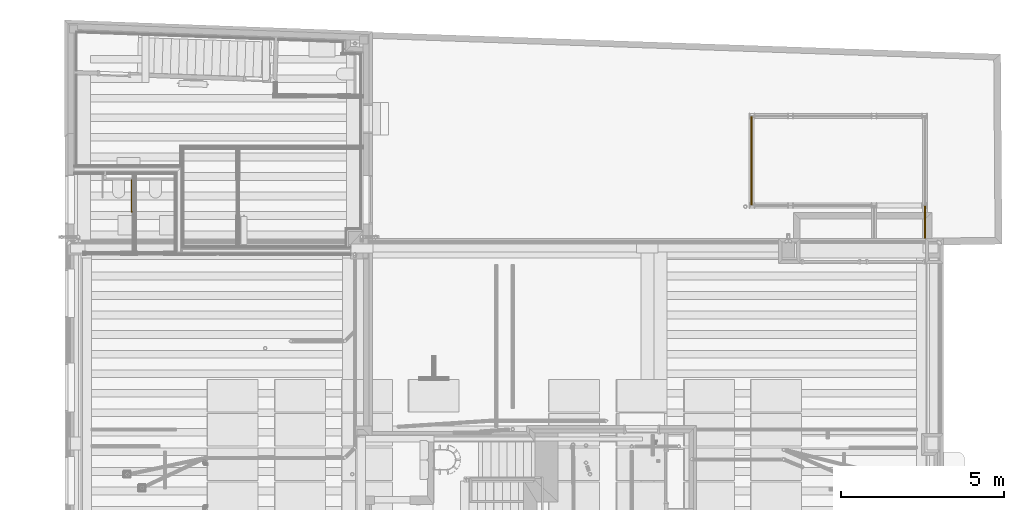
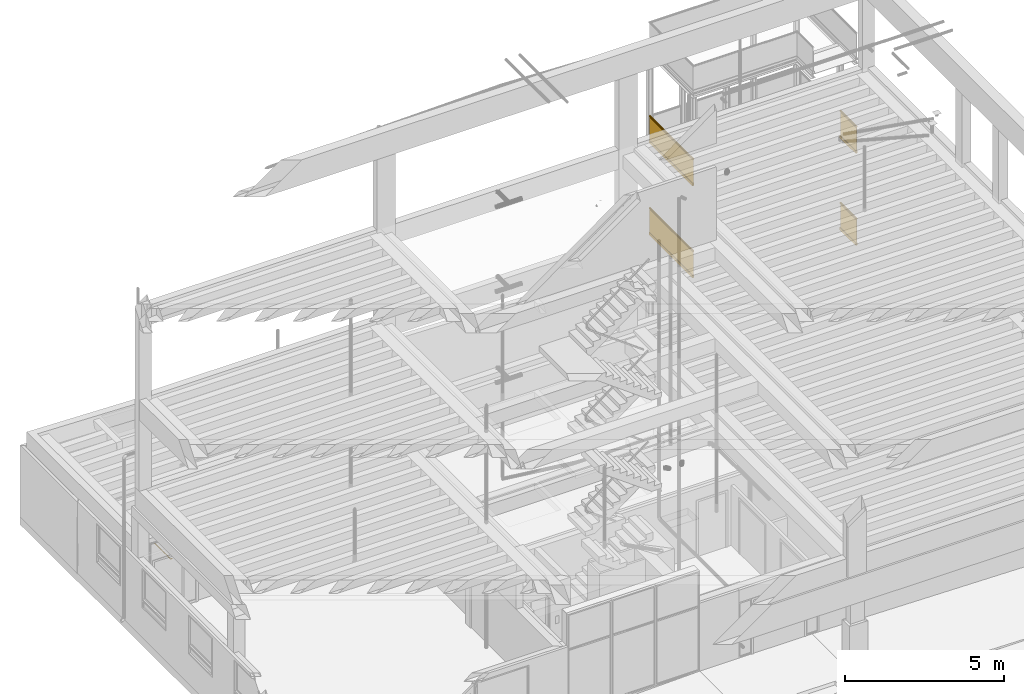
# One storey, part 32 of 106: 5 railings.
"""IFC2X3 building model written with IfcOpenShell, lengths in metres."""

from ifc_helpers import new_model, entity, si_unit, converted_unit, derived_unit, money_unit, direction, frame, origin_with_axes, place, context, subcontext, project, spatial, faceted_brep, material, type_object, element, save


model = new_model("IFC2X3")

# Units and contexts
model_context = context("Model", 3, precision=1e-05, world=origin_with_axes(), true_north=direction((0.0, 1.0)))
body_context = subcontext(model_context, "Body", "Model", "MODEL_VIEW", scale=1.0)
ifc_project = project(units=[si_unit("LENGTHUNIT", "METRE"), si_unit("AREAUNIT", "SQUARE_METRE"), si_unit("VOLUMEUNIT", "CUBIC_METRE"), si_unit("ABSORBEDDOSEUNIT", "GRAY"), si_unit("AMOUNTOFSUBSTANCEUNIT", "MOLE"), si_unit("DOSEEQUIVALENTUNIT", "SIEVERT"), si_unit("ELECTRICCAPACITANCEUNIT", "FARAD"), si_unit("ELECTRICCHARGEUNIT", "COULOMB"), si_unit("ELECTRICCONDUCTANCEUNIT", "SIEMENS"), si_unit("ELECTRICCURRENTUNIT", "AMPERE"), si_unit("ELECTRICRESISTANCEUNIT", "OHM"), si_unit("ELECTRICVOLTAGEUNIT", "VOLT"), si_unit("ENERGYUNIT", "JOULE"), si_unit("FORCEUNIT", "NEWTON"), si_unit("FREQUENCYUNIT", "HERTZ"), si_unit("ILLUMINANCEUNIT", "LUX"), si_unit("INDUCTANCEUNIT", "HENRY"), si_unit("LUMINOUSFLUXUNIT", "LUMEN"), si_unit("LUMINOUSINTENSITYUNIT", "CANDELA"), si_unit("MAGNETICFLUXDENSITYUNIT", "TESLA"), si_unit("MAGNETICFLUXUNIT", "WEBER"), si_unit("MASSUNIT", "GRAM"), converted_unit("PLANEANGLEUNIT", "degree", entity("IfcReal", 0.0174532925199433), si_unit("PLANEANGLEUNIT", "RADIAN"), dimensions=[0, 0, 0, 0, 0, 0, 0]), si_unit("POWERUNIT", "WATT"), si_unit("PRESSUREUNIT", "PASCAL"), si_unit("RADIOACTIVITYUNIT", "BECQUEREL"), si_unit("SOLIDANGLEUNIT", "STERADIAN"), si_unit("THERMODYNAMICTEMPERATUREUNIT", "KELVIN"), si_unit("TIMEUNIT", "SECOND"), derived_unit("ACCELERATIONUNIT", [(si_unit("LENGTHUNIT", "METRE"), 1), (si_unit("TIMEUNIT", "SECOND"), -2)]), derived_unit("ANGULARVELOCITYUNIT", [(converted_unit("PLANEANGLEUNIT", "degree", entity("IfcReal", 0.0174532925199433), si_unit("PLANEANGLEUNIT", "RADIAN"), dimensions=[0, 0, 0, 0, 0, 0, 0]), 1), (si_unit("TIMEUNIT", "SECOND"), -1)]), derived_unit("CURVATUREUNIT", [(converted_unit("PLANEANGLEUNIT", "degree", entity("IfcReal", 0.0174532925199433), si_unit("PLANEANGLEUNIT", "RADIAN"), dimensions=[0, 0, 0, 0, 0, 0, 0]), 1), (si_unit("LENGTHUNIT", "METRE"), -1)]), derived_unit("DYNAMICVISCOSITYUNIT", [(si_unit("PRESSUREUNIT", "PASCAL"), 1), (si_unit("TIMEUNIT", "SECOND"), 1)]), derived_unit("HEATFLUXDENSITYUNIT", [(si_unit("POWERUNIT", "WATT"), 1), (si_unit("LENGTHUNIT", "METRE"), -2)]), derived_unit("HEATINGVALUEUNIT", [(si_unit("ENERGYUNIT", "JOULE"), 1), (si_unit("MASSUNIT", "GRAM"), -1)]), derived_unit("INTEGERCOUNTRATEUNIT", [(si_unit("TIMEUNIT", "SECOND"), -1)]), derived_unit("IONCONCENTRATIONUNIT", [(si_unit("MASSUNIT", "GRAM"), 1), (si_unit("VOLUMEUNIT", "CUBIC_METRE"), -1)]), derived_unit("ISOTHERMALMOISTURECAPACITYUNIT", [(si_unit("VOLUMEUNIT", "CUBIC_METRE"), 1), (si_unit("MASSUNIT", "GRAM"), -1)]), derived_unit("KINEMATICVISCOSITYUNIT", [(si_unit("AREAUNIT", "SQUARE_METRE"), 1), (si_unit("TIMEUNIT", "SECOND"), -1)]), derived_unit("LINEARFORCEUNIT", [(si_unit("FORCEUNIT", "NEWTON"), 1), (si_unit("LENGTHUNIT", "METRE"), -1)]), derived_unit("LINEARMOMENTUNIT", [(si_unit("FORCEUNIT", "NEWTON"), 1), (si_unit("LENGTHUNIT", "METRE"), -1)]), derived_unit("LINEARSTIFFNESSUNIT", [(si_unit("FORCEUNIT", "NEWTON"), 1), (si_unit("LENGTHUNIT", "METRE"), -1)]), derived_unit("LINEARVELOCITYUNIT", [(si_unit("LENGTHUNIT", "METRE"), 1), (si_unit("TIMEUNIT", "SECOND"), -1)]), derived_unit("LUMINOUSINTENSITYDISTRIBUTIONUNIT", [(si_unit("LUMINOUSINTENSITYUNIT", "CANDELA"), 1), (si_unit("LUMINOUSFLUXUNIT", "LUMEN"), -1)]), derived_unit("MASSDENSITYUNIT", [(si_unit("MASSUNIT", "GRAM"), 1), (si_unit("VOLUMEUNIT", "CUBIC_METRE"), -1)]), derived_unit("MASSFLOWRATEUNIT", [(si_unit("MASSUNIT", "GRAM"), 1), (si_unit("TIMEUNIT", "SECOND"), -1)]), derived_unit("MASSPERLENGTHUNIT", [(si_unit("MASSUNIT", "GRAM"), 1), (si_unit("LENGTHUNIT", "METRE"), -1)]), derived_unit("MODULUSOFELASTICITYUNIT", [(si_unit("FORCEUNIT", "NEWTON"), 1), (si_unit("AREAUNIT", "SQUARE_METRE"), -1)]), derived_unit("MODULUSOFLINEARSUBGRADEREACTIONUNIT", [(si_unit("FORCEUNIT", "NEWTON"), 1), (si_unit("LENGTHUNIT", "METRE"), -2)]), derived_unit("MODULUSOFROTATIONALSUBGRADEREACTIONUNIT", [(si_unit("FORCEUNIT", "NEWTON"), 1), (si_unit("LENGTHUNIT", "METRE"), 1)]), derived_unit("MODULUSOFSUBGRADEREACTIONUNIT", [(si_unit("FORCEUNIT", "NEWTON"), 1), (si_unit("VOLUMEUNIT", "CUBIC_METRE"), -1)]), derived_unit("MOISTUREDIFFUSIVITYUNIT", [(si_unit("VOLUMEUNIT", "CUBIC_METRE"), 1), (si_unit("TIMEUNIT", "SECOND"), -1)]), derived_unit("MOLECULARWEIGHTUNIT", [(si_unit("MASSUNIT", "GRAM"), 1), (si_unit("AMOUNTOFSUBSTANCEUNIT", "MOLE"), -1)]), derived_unit("PLANARFORCEUNIT", [(si_unit("FORCEUNIT", "NEWTON"), 1), (si_unit("LENGTHUNIT", "METRE"), -2)]), derived_unit("ROTATIONALFREQUENCYUNIT", [(si_unit("TIMEUNIT", "SECOND"), -1)]), derived_unit("ROTATIONALMASSUNIT", [(si_unit("MASSUNIT", "GRAM"), 1), (si_unit("LENGTHUNIT", "METRE"), 2)]), derived_unit("ROTATIONALSTIFFNESSUNIT", [(si_unit("FORCEUNIT", "NEWTON"), 1), (si_unit("LENGTHUNIT", "METRE"), 1), (converted_unit("PLANEANGLEUNIT", "degree", entity("IfcReal", 0.0174532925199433), si_unit("PLANEANGLEUNIT", "RADIAN"), dimensions=[0, 0, 0, 0, 0, 0, 0]), -1)]), derived_unit("SECTIONAREAINTEGRALUNIT", [(si_unit("LENGTHUNIT", "METRE"), 5)]), derived_unit("SECTIONMODULUSUNIT", [(si_unit("LENGTHUNIT", "METRE"), 3)]), derived_unit("SHEARMODULUSUNIT", [(si_unit("FORCEUNIT", "NEWTON"), 1), (si_unit("AREAUNIT", "SQUARE_METRE"), -1)]), derived_unit("SOUNDPOWERUNIT", [(si_unit("ENERGYUNIT", "JOULE"), 1), (si_unit("TIMEUNIT", "SECOND"), -1)]), derived_unit("SPECIFICHEATCAPACITYUNIT", [(si_unit("FORCEUNIT", "NEWTON"), 1), (si_unit("MASSUNIT", "GRAM"), -1), (si_unit("THERMODYNAMICTEMPERATUREUNIT", "KELVIN"), -1)]), derived_unit("TEMPERATUREGRADIENTUNIT", [(si_unit("THERMODYNAMICTEMPERATUREUNIT", "KELVIN"), 1), (si_unit("LENGTHUNIT", "METRE"), -1)]), derived_unit("THERMALADMITTANCEUNIT", [(si_unit("POWERUNIT", "WATT"), 1), (si_unit("AREAUNIT", "SQUARE_METRE"), -1), (si_unit("THERMODYNAMICTEMPERATUREUNIT", "KELVIN"), -1)]), derived_unit("THERMALCONDUCTANCEUNIT", [(si_unit("POWERUNIT", "WATT"), 1), (si_unit("LENGTHUNIT", "METRE"), -1), (si_unit("THERMODYNAMICTEMPERATUREUNIT", "KELVIN"), -1)]), derived_unit("THERMALEXPANSIONCOEFFICIENTUNIT", [(si_unit("THERMODYNAMICTEMPERATUREUNIT", "KELVIN"), -1)]), derived_unit("THERMALRESISTANCEUNIT", [(si_unit("AREAUNIT", "SQUARE_METRE"), 1), (si_unit("POWERUNIT", "WATT"), -1)]), derived_unit("THERMALTRANSMITTANCEUNIT", [(si_unit("POWERUNIT", "WATT"), 1), (si_unit("AREAUNIT", "SQUARE_METRE"), -1), (si_unit("THERMODYNAMICTEMPERATUREUNIT", "KELVIN"), -1)]), derived_unit("TORQUEUNIT", [(si_unit("FORCEUNIT", "NEWTON"), 1), (si_unit("LENGTHUNIT", "METRE"), 1)]), derived_unit("VAPORPERMEABILITYUNIT", [(si_unit("MASSUNIT", "GRAM"), 1), (si_unit("TIMEUNIT", "SECOND"), -1)]), derived_unit("VOLUMETRICFLOWRATEUNIT", [(si_unit("VOLUMEUNIT", "CUBIC_METRE"), 1), (si_unit("TIMEUNIT", "SECOND"), -1)]), derived_unit("WARPINGCONSTANTUNIT", [(si_unit("LENGTHUNIT", "METRE"), 6)]), derived_unit("WARPINGMOMENTUNIT", [(si_unit("FORCEUNIT", "NEWTON"), 1), (si_unit("LENGTHUNIT", "METRE"), 2)]), money_unit("GBP")], contexts=[model_context])

# Site, building, storey
site_placement = place(None, origin_with_axes())
site = spatial("IfcSite", under=ifc_project, at=site_placement, Name="Site", CompositionType="ELEMENT")
building_placement = place(site_placement, origin_with_axes())
building = spatial("IfcBuilding", under=site, at=building_placement, Name="Building01", CompositionType="ELEMENT")
storey_placement = place(building_placement, origin_with_axes())
storey = spatial("IfcBuildingStorey", under=building, at=storey_placement, Name="GF", CompositionType="ELEMENT", Elevation=0.0)

# Railings
ifc_material = material(Name="A_BSUK_Steel_Miscellaneous")
railing_type_1 = type_object("IfcRailingType", Name="A-Handrail-900mm", PredefinedType="NOTDEFINED")
railing_1_placement = place(storey_placement, frame((2.100525, 15.721284, 0.198), z_axis=(0.0, 0.0, 1.0), x_axis=(1.0, 0.0, 0.0)))
element("IfcRailing", 1, at=railing_1_placement, inside=storey, type_object=railing_type_1, material=ifc_material, Name="A-Handrail-900mm", ObjectType="A-Handrail-900mm", PredefinedType="HANDRAIL", context=body_context, shape_type="Brep", body=[
    faceted_brep([(-0.05373, 0.00692, 0.88935), (-0.054743, 0.005907, 0.886903), (0.0, 0.006393, 0.886702), (-0.055757, 0.004893, 0.884457), (0.0, 0.004893, 0.884457), (-0.058203, 0.002447, 0.883443), (0.0, 0.002648, 0.882957), (-0.06065, 0.0, 0.88243), (0.0, 0.0, 0.88243), (-0.063097, -0.002447, 0.883443), (0.0, -0.002648, 0.882957), (-0.065543, -0.004893, 0.884457), (0.0, -0.004893, 0.884457), (-0.066557, -0.005907, 0.886903), (0.0, -0.006393, 0.886702), (-0.06757, -0.00692, 0.88935), (0.0, -0.00692, 0.88935), (-0.066557, -0.005907, 0.891797), (0.0, -0.006393, 0.891998), (-0.065543, -0.004893, 0.894243), (0.0, -0.004893, 0.894243), (-0.063097, -0.002447, 0.895257), (0.0, -0.002648, 0.895743), (-0.06065, 0.0, 0.89627), (0.0, 0.0, 0.89627), (-0.058203, 0.002447, 0.895257), (0.0, 0.002648, 0.895743), (-0.055757, 0.004893, 0.894243), (0.0, 0.004893, 0.894243), (-0.054743, 0.005907, 0.891797), (0.0, 0.006393, 0.891998), (0.0, 0.00692, 0.88935), (0.0, -0.009839, 0.885274), (0.0, -0.007531, 0.881819), (0.0, -0.004076, 0.879511), (0.0, 0.0, 0.8787), (0.0, 0.004076, 0.879511), (0.0, 0.007531, 0.881819), (0.0, 0.009839, 0.885274), (0.0, 0.01065, 0.88935), (0.0, 0.009839, 0.893426), (0.0, 0.007531, 0.896881), (0.0, 0.004076, 0.899189), (0.0, 0.0, 0.9), (0.0, -0.004076, 0.899189), (0.0, -0.007531, 0.896881), (0.0, -0.009839, 0.893426), (0.0, -0.01065, 0.88935), (-0.068181, -0.007531, 0.896881), (-0.064726, -0.004076, 0.899189), (-0.06065, 0.0, 0.9), (-0.056574, 0.004076, 0.899189), (-0.053119, 0.007531, 0.896881), (-0.050811, 0.009839, 0.893426), (-0.05, 0.01065, 0.88935), (-0.050811, 0.009839, 0.885274), (-0.053119, 0.007531, 0.881819), (-0.056574, 0.004076, 0.879511), (-0.06065, 0.0, 0.8787), (-0.064726, -0.004076, 0.879511), (-0.068181, -0.007531, 0.881819), (-0.069944, -0.009294, 0.885532), (-0.071245, -0.010595, 0.888273), (-0.071245, -0.010595, 0.890427), (-0.069944, -0.009294, 0.893168), (-0.071245, -0.01065, 0.88935)], [[[0, 1, 2]], [[1, 3, 4]], [[3, 5, 6]], [[5, 7, 8]], [[7, 9, 10]], [[9, 11, 12]], [[11, 13, 14]], [[13, 15, 16]], [[17, 18, 16]], [[19, 20, 18]], [[21, 22, 20]], [[23, 24, 22]], [[25, 26, 24]], [[27, 28, 26]], [[29, 30, 28]], [[0, 31, 30]], [[30, 29, 0]], [[28, 27, 29]], [[26, 25, 27]], [[24, 23, 25]], [[22, 21, 23]], [[20, 19, 21]], [[18, 17, 19]], [[16, 15, 17]], [[16, 14, 13]], [[14, 12, 11]], [[12, 10, 9]], [[10, 8, 7]], [[8, 6, 5]], [[6, 4, 3]], [[4, 2, 1]], [[2, 31, 0]], [[32, 33, 34, 35, 36, 37, 38, 39, 40, 41, 42, 43, 44, 45, 46, 47], [18, 20, 22, 24, 26, 28, 30, 31, 2, 4, 6, 8, 10, 12, 14, 16]], [[48, 49, 50, 51, 52, 53, 54, 55, 56, 57, 58, 59, 60, 61, 62, 63, 64], [27, 25, 23, 21, 19, 17, 15, 13, 11, 9, 7, 5, 3, 1, 0, 29]], [[61, 32, 47]], [[60, 33, 32]], [[59, 34, 33, 60]], [[58, 35, 34, 59]], [[57, 36, 35, 58]], [[56, 37, 36, 57]], [[55, 38, 37, 56]], [[54, 39, 38, 55]], [[53, 40, 39, 54]], [[52, 41, 40, 53]], [[51, 42, 41, 52]], [[50, 43, 42, 51]], [[49, 44, 43, 50]], [[48, 45, 44, 49]], [[48, 64, 46]], [[63, 65, 47]], [[64, 63, 47]], [[47, 46, 64]], [[46, 45, 48]], [[32, 61, 60]], [[47, 65, 62]], [[47, 62, 61]], [[62, 65, 63]]]),
    faceted_brep([(-0.070489, -0.009839, 0.885274), (-0.068181, -0.007531, 0.881819), (-0.064726, -0.004076, 0.879511), (-0.06065, 0.0, 0.8787), (-0.056574, 0.004076, 0.879511), (-0.053119, 0.007531, 0.881819), (-0.050811, 0.009839, 0.885274), (-0.05, 0.01065, 0.88935), (-0.050811, 0.009839, 0.893426), (-0.053119, 0.007531, 0.896881), (-0.056574, 0.004076, 0.899189), (-0.06065, 0.0, 0.9), (-0.064726, -0.004076, 0.899189), (-0.068181, -0.007531, 0.896881), (-0.070489, -0.009839, 0.893426), (-0.0713, -0.01065, 0.88935), (-0.065543, -0.004893, 0.894243), (-0.063097, -0.002447, 0.895257), (-0.06065, 0.0, 0.89627), (-0.058203, 0.002447, 0.895257), (-0.055757, 0.004893, 0.894243), (-0.054743, 0.005907, 0.891797), (-0.05373, 0.00692, 0.88935), (-0.054743, 0.005907, 0.886903), (-0.055757, 0.004893, 0.884457), (-0.058203, 0.002447, 0.883443), (-0.06065, 0.0, 0.88243), (-0.063097, -0.002447, 0.883443), (-0.065543, -0.004893, 0.884457), (-0.066557, -0.005907, 0.886903), (-0.06757, -0.00692, 0.88935), (-0.066557, -0.005907, 0.891797), (-0.067043, 0.987366, 0.886702), (-0.06757, 0.987366, 0.88935), (-0.065543, 0.987366, 0.884457), (-0.063298, 0.987366, 0.882957), (-0.06065, 0.987366, 0.88243), (-0.058002, 0.987366, 0.882957), (-0.055757, 0.987366, 0.884457), (-0.054257, 0.987366, 0.886702), (-0.05373, 0.987366, 0.88935), (-0.054257, 0.987366, 0.891998), (-0.055757, 0.987366, 0.894243), (-0.058002, 0.987366, 0.895743), (-0.06065, 0.987366, 0.89627), (-0.063298, 0.987366, 0.895743), (-0.065543, 0.987366, 0.894243), (-0.067043, 0.987366, 0.891998), (-0.070489, 0.987366, 0.893426), (-0.068181, 0.987366, 0.896881), (-0.064726, 0.987366, 0.899189), (-0.06065, 0.987366, 0.9), (-0.056574, 0.987366, 0.899189), (-0.053119, 0.987366, 0.896881), (-0.050811, 0.987366, 0.893426), (-0.05, 0.987366, 0.88935), (-0.050811, 0.987366, 0.885274), (-0.053119, 0.987366, 0.881819), (-0.056574, 0.987366, 0.879511), (-0.06065, 0.987366, 0.8787), (-0.064726, 0.987366, 0.879511), (-0.068181, 0.987366, 0.881819), (-0.070489, 0.987366, 0.885274), (-0.0713, 0.987366, 0.88935)], [[[0, 1, 2, 3, 4, 5, 6, 7, 8, 9, 10, 11, 12, 13, 14, 15], [16, 17, 18, 19, 20, 21, 22, 23, 24, 25, 26, 27, 28, 29, 30, 31]], [[29, 32, 33]], [[28, 34, 32]], [[27, 35, 34]], [[26, 36, 35]], [[25, 37, 36]], [[24, 38, 37]], [[23, 39, 38]], [[22, 40, 39]], [[22, 21, 41]], [[21, 20, 42]], [[20, 19, 43]], [[19, 18, 44]], [[18, 17, 45]], [[17, 16, 46]], [[16, 31, 47]], [[31, 30, 33]], [[33, 47, 31]], [[47, 46, 16]], [[46, 45, 17]], [[45, 44, 18]], [[44, 43, 19]], [[43, 42, 20]], [[42, 41, 21]], [[41, 40, 22]], [[39, 23, 22]], [[38, 24, 23]], [[37, 25, 24]], [[36, 26, 25]], [[35, 27, 26]], [[34, 28, 27]], [[32, 29, 28]], [[33, 30, 29]], [[48, 49, 50, 51, 52, 53, 54, 55, 56, 57, 58, 59, 60, 61, 62, 63], [32, 34, 35, 36, 37, 38, 39, 40, 41, 42, 43, 44, 45, 46, 47, 33]], [[14, 48, 63, 15]], [[13, 49, 48, 14]], [[12, 50, 49, 13]], [[11, 51, 50, 12]], [[10, 52, 51, 11]], [[9, 53, 52, 10]], [[8, 54, 53, 9]], [[7, 55, 54, 8]], [[6, 56, 55, 7]], [[5, 57, 56, 6]], [[4, 58, 57, 5]], [[3, 59, 58, 4]], [[2, 60, 59, 3]], [[1, 61, 60, 2]], [[0, 62, 61, 1]], [[15, 63, 62, 0]]]),
])
railing_type_2 = type_object("IfcRailingType", Name="A-RailingGlassPanel-1050mm", PredefinedType="NOTDEFINED")
railing_2_placement = place(storey_placement, frame((21.090134, 15.921381, 8.587442), z_axis=(0.0, 0.0, 1.0), x_axis=(1.0, 0.0, 0.0)))
element("IfcRailing", 2, at=railing_2_placement, inside=storey, type_object=railing_type_2, material=ifc_material, Name="A-RailingGlassPanel-1050mm", ObjectType="A-RailingGlassPanel-1050mm", PredefinedType="HANDRAIL", context=body_context, shape_type="Brep", body=[
    faceted_brep([(-0.0125, 2.7366, 0.9875), (-0.0125, 0.0, 0.9875), (-0.023022, 0.0, 0.99456), (-0.023022, 2.7366, 0.99456), (-0.030045, 0.0, 1.005108), (-0.030045, 2.7366, 1.005108), (-0.0325, 0.0, 1.017539), (-0.0325, 2.7366, 1.017539), (-0.030015, 0.0, 1.029964), (-0.030015, 2.7366, 1.029964), (-0.022967, 0.0, 1.040495), (-0.022967, 2.7366, 1.040495), (-0.012428, 0.0, 1.04753), (-0.012428, 2.7366, 1.04753), (0.0, 0.0, 1.05), (0.0, 2.7366, 1.05), (0.012428, 0.0, 1.04753), (0.012428, 2.7366, 1.04753), (0.022967, 0.0, 1.040495), (0.022967, 2.7366, 1.040495), (0.030015, 0.0, 1.029964), (0.030015, 2.7366, 1.029964), (0.0325, 0.0, 1.017539), (0.0325, 2.7366, 1.017539), (0.030045, 0.0, 1.005108), (0.030045, 2.7366, 1.005108), (0.023022, 0.0, 0.99456), (0.023022, 2.7366, 0.99456), (0.0125, 0.0, 0.9875), (0.0125, 2.7366, 0.9875), (-0.0125, 2.7366, 1.0125), (-0.0125, 0.0, 1.0125), (0.0125, 2.7366, 1.0125), (0.0125, 0.0, 1.0125)], [[[0, 1, 2, 3]], [[3, 2, 4, 5]], [[5, 4, 6, 7]], [[7, 6, 8, 9]], [[9, 8, 10, 11]], [[11, 10, 12, 13]], [[13, 12, 14, 15]], [[15, 14, 16, 17]], [[17, 16, 18, 19]], [[19, 18, 20, 21]], [[21, 20, 22, 23]], [[23, 22, 24, 25]], [[25, 24, 26, 27]], [[27, 26, 28, 29]], [[0, 30, 31, 1]], [[30, 32, 33, 31]], [[32, 30, 0, 3, 5, 7, 9, 11, 13, 15, 17, 19, 21, 23, 25, 27, 29]], [[32, 29, 28, 33]], [[28, 26, 24, 22, 20, 18, 16, 14, 12, 10, 8, 6, 4, 2, 1, 31, 33]]]),
    faceted_brep([(-0.0295, 2.7366, 0.099925), (-0.0295, 0.0, 0.099925), (-0.0125, 0.0, 0.099925), (-0.0125, 2.7366, 0.099925), (-0.0325, 2.7366, 0.096925), (-0.0325, 0.0, 0.096925), (-0.032272, 0.0, 0.098073), (-0.032272, 2.7366, 0.098073), (-0.031621, 0.0, 0.099046), (-0.031621, 2.7366, 0.099046), (-0.030648, 0.0, 0.099697), (-0.030648, 2.7366, 0.099697), (-0.0325, 2.7366, 0.003), (-0.0325, 0.0, 0.003), (-0.0295, 2.7366, 0.0), (-0.030648, 2.7366, 0.000228), (-0.031621, 2.7366, 0.000879), (-0.032272, 2.7366, 0.001852), (-0.0125, 2.7366, 0.01), (0.0125, 2.7366, 0.01), (0.0125, 2.7366, 0.099925), (0.0295, 2.7366, 0.099925), (0.030648, 2.7366, 0.099697), (0.031621, 2.7366, 0.099046), (0.032272, 2.7366, 0.098073), (0.0325, 2.7366, 0.096925), (0.0325, 2.7366, 0.003), (0.032272, 2.7366, 0.001852), (0.031621, 2.7366, 0.000879), (0.030648, 2.7366, 0.000228), (0.0295, 2.7366, 0.0), (0.0295, 0.0, 0.0), (0.030648, 0.0, 0.000228), (0.031621, 0.0, 0.000879), (0.032272, 0.0, 0.001852), (0.0325, 0.0, 0.003), (0.0325, 0.0, 0.096925), (0.032272, 0.0, 0.098073), (0.031621, 0.0, 0.099046), (0.030648, 0.0, 0.099697), (0.0295, 0.0, 0.099925), (0.0125, 0.0, 0.099925), (0.0125, 0.0, 0.01), (-0.0125, 0.0, 0.01), (-0.032272, 0.0, 0.001852), (-0.031621, 0.0, 0.000879), (-0.030648, 0.0, 0.000228), (-0.0295, 0.0, 0.0)], [[[0, 1, 2, 3]], [[4, 5, 6, 7]], [[7, 6, 8, 9]], [[9, 8, 10, 11]], [[11, 10, 1, 0]], [[4, 12, 13, 5]], [[14, 15, 16, 17, 12, 4, 7, 9, 11, 0, 3, 18, 19, 20, 21, 22, 23, 24, 25, 26, 27, 28, 29, 30]], [[31, 32, 33, 34, 35, 36, 37, 38, 39, 40, 41, 42, 43, 2, 1, 10, 8, 6, 5, 13, 44, 45, 46, 47]], [[14, 47, 46, 15]], [[15, 46, 45, 16]], [[16, 45, 44, 17]], [[17, 44, 13, 12]], [[14, 30, 31, 47]], [[26, 35, 34, 27]], [[27, 34, 33, 28]], [[28, 33, 32, 29]], [[29, 32, 31, 30]], [[26, 25, 36, 35]], [[21, 40, 39, 22]], [[22, 39, 38, 23]], [[23, 38, 37, 24]], [[24, 37, 36, 25]], [[21, 20, 41, 40]], [[20, 19, 42, 41]], [[19, 18, 43, 42]], [[18, 3, 2, 43]]]),
    faceted_brep([(0.0, 0.0, 0.05), (0.0, 0.0, 1.025), (0.0, 2.7366, 1.025), (0.0, 2.7366, 0.05), (0.01, 2.7366, 0.05), (0.01, 2.7366, 1.025), (0.01, 0.0, 1.025), (0.01, 0.0, 0.05)], [[[0, 1, 2, 3]], [[4, 5, 6, 7]], [[0, 7, 6, 1]], [[1, 6, 5, 2]], [[2, 5, 4, 3]], [[3, 4, 7, 0]]]),
])
railing_3_placement = place(storey_placement, frame((26.411335, 14.9, 8.587442), z_axis=(0.0, 0.0, 1.0), x_axis=(1.0, 0.0, 0.0)))
element("IfcRailing", 3, at=railing_3_placement, inside=storey, type_object=railing_type_2, material=ifc_material, Name="A-RailingGlassPanel-1050mm", ObjectType="A-RailingGlassPanel-1050mm", PredefinedType="HANDRAIL", context=body_context, shape_type="Brep", body=[
    faceted_brep([(-0.0125, 1.010381, 0.9875), (-0.0125, 0.0, 0.9875), (-0.023022, 0.0, 0.99456), (-0.023022, 1.010381, 0.99456), (-0.030045, 0.0, 1.005108), (-0.030045, 1.010381, 1.005108), (-0.0325, 0.0, 1.017539), (-0.0325, 1.010381, 1.017539), (-0.030015, 0.0, 1.029964), (-0.030015, 1.010381, 1.029964), (-0.022967, 0.0, 1.040495), (-0.022967, 1.010381, 1.040495), (-0.012428, 0.0, 1.04753), (-0.012428, 1.010381, 1.04753), (0.0, 0.0, 1.05), (0.0, 1.010381, 1.05), (0.012428, 0.0, 1.04753), (0.012428, 1.010381, 1.04753), (0.022967, 0.0, 1.040495), (0.022967, 1.010381, 1.040495), (0.030015, 0.0, 1.029964), (0.030015, 1.010381, 1.029964), (0.0325, 0.0, 1.017539), (0.0325, 1.010381, 1.017539), (0.030045, 0.0, 1.005108), (0.030045, 1.010381, 1.005108), (0.023022, 0.0, 0.99456), (0.023022, 1.010381, 0.99456), (0.0125, 0.0, 0.9875), (0.0125, 1.010381, 0.9875), (-0.0125, 1.010381, 1.0125), (-0.0125, 0.0, 1.0125), (0.0125, 1.010381, 1.0125), (0.0125, 0.0, 1.0125)], [[[0, 1, 2, 3]], [[3, 2, 4, 5]], [[5, 4, 6, 7]], [[7, 6, 8, 9]], [[9, 8, 10, 11]], [[11, 10, 12, 13]], [[13, 12, 14, 15]], [[15, 14, 16, 17]], [[17, 16, 18, 19]], [[19, 18, 20, 21]], [[21, 20, 22, 23]], [[23, 22, 24, 25]], [[25, 24, 26, 27]], [[27, 26, 28, 29]], [[0, 30, 31, 1]], [[30, 32, 33, 31]], [[32, 30, 0, 3, 5, 7, 9, 11, 13, 15, 17, 19, 21, 23, 25, 27, 29]], [[32, 29, 28, 33]], [[28, 26, 24, 22, 20, 18, 16, 14, 12, 10, 8, 6, 4, 2, 1, 31, 33]]]),
    faceted_brep([(-0.0295, 1.010381, 0.099925), (-0.0295, 0.0, 0.099925), (-0.0125, 0.0, 0.099925), (-0.0125, 1.010381, 0.099925), (-0.0325, 1.010381, 0.096925), (-0.0325, 0.0, 0.096925), (-0.032272, 0.0, 0.098073), (-0.032272, 1.010381, 0.098073), (-0.031621, 0.0, 0.099046), (-0.031621, 1.010381, 0.099046), (-0.030648, 0.0, 0.099697), (-0.030648, 1.010381, 0.099697), (-0.0325, 1.010381, 0.003), (-0.0325, 0.0, 0.003), (-0.0295, 1.010381, 0.0), (-0.030648, 1.010381, 0.000228), (-0.031621, 1.010381, 0.000879), (-0.032272, 1.010381, 0.001852), (-0.0125, 1.010381, 0.01), (0.0125, 1.010381, 0.01), (0.0125, 1.010381, 0.099925), (0.0295, 1.010381, 0.099925), (0.030648, 1.010381, 0.099697), (0.031621, 1.010381, 0.099046), (0.032272, 1.010381, 0.098073), (0.0325, 1.010381, 0.096925), (0.0325, 1.010381, 0.003), (0.032272, 1.010381, 0.001852), (0.031621, 1.010381, 0.000879), (0.030648, 1.010381, 0.000228), (0.0295, 1.010381, 0.0), (0.0295, 0.0, 0.0), (0.030648, 0.0, 0.000228), (0.031621, 0.0, 0.000879), (0.032272, 0.0, 0.001852), (0.0325, 0.0, 0.003), (0.0325, 0.0, 0.096925), (0.032272, 0.0, 0.098073), (0.031621, 0.0, 0.099046), (0.030648, 0.0, 0.099697), (0.0295, 0.0, 0.099925), (0.0125, 0.0, 0.099925), (0.0125, 0.0, 0.01), (-0.0125, 0.0, 0.01), (-0.032272, 0.0, 0.001852), (-0.031621, 0.0, 0.000879), (-0.030648, 0.0, 0.000228), (-0.0295, 0.0, 0.0)], [[[0, 1, 2, 3]], [[4, 5, 6, 7]], [[7, 6, 8, 9]], [[9, 8, 10, 11]], [[11, 10, 1, 0]], [[4, 12, 13, 5]], [[14, 15, 16, 17, 12, 4, 7, 9, 11, 0, 3, 18, 19, 20, 21, 22, 23, 24, 25, 26, 27, 28, 29, 30]], [[31, 32, 33, 34, 35, 36, 37, 38, 39, 40, 41, 42, 43, 2, 1, 10, 8, 6, 5, 13, 44, 45, 46, 47]], [[14, 47, 46, 15]], [[15, 46, 45, 16]], [[16, 45, 44, 17]], [[17, 44, 13, 12]], [[14, 30, 31, 47]], [[26, 35, 34, 27]], [[27, 34, 33, 28]], [[28, 33, 32, 29]], [[29, 32, 31, 30]], [[26, 25, 36, 35]], [[21, 40, 39, 22]], [[22, 39, 38, 23]], [[23, 38, 37, 24]], [[24, 37, 36, 25]], [[21, 20, 41, 40]], [[20, 19, 42, 41]], [[19, 18, 43, 42]], [[18, 3, 2, 43]]]),
    faceted_brep([(0.0, 0.0, 0.05), (0.0, 0.0, 1.025), (0.0, 1.010381, 1.025), (0.0, 1.010381, 0.05), (0.01, 1.010381, 0.05), (0.01, 1.010381, 1.025), (0.01, 0.0, 1.025), (0.01, 0.0, 0.05)], [[[0, 1, 2, 3]], [[4, 5, 6, 7]], [[0, 7, 6, 1]], [[1, 6, 5, 2]], [[2, 5, 4, 3]], [[3, 4, 7, 0]]]),
])
railing_4_placement = place(storey_placement, frame((21.090134, 15.921381, 5.064467), z_axis=(0.0, 0.0, 1.0), x_axis=(1.0, 0.0, 0.0)))
element("IfcRailing", 4, at=railing_4_placement, inside=storey, type_object=railing_type_2, material=ifc_material, Name="A-RailingGlassPanel-1050mm", ObjectType="A-RailingGlassPanel-1050mm", PredefinedType="HANDRAIL", context=body_context, shape_type="Brep", body=[
    faceted_brep([(-0.0125, 2.7366, 0.9875), (-0.0125, 0.0, 0.9875), (-0.023022, 0.0, 0.99456), (-0.023022, 2.7366, 0.99456), (-0.030045, 0.0, 1.005108), (-0.030045, 2.7366, 1.005108), (-0.0325, 0.0, 1.017539), (-0.0325, 2.7366, 1.017539), (-0.030015, 0.0, 1.029964), (-0.030015, 2.7366, 1.029964), (-0.022967, 0.0, 1.040495), (-0.022967, 2.7366, 1.040495), (-0.012428, 0.0, 1.04753), (-0.012428, 2.7366, 1.04753), (0.0, 0.0, 1.05), (0.0, 2.7366, 1.05), (0.012428, 0.0, 1.04753), (0.012428, 2.7366, 1.04753), (0.022967, 0.0, 1.040495), (0.022967, 2.7366, 1.040495), (0.030015, 0.0, 1.029964), (0.030015, 2.7366, 1.029964), (0.0325, 0.0, 1.017539), (0.0325, 2.7366, 1.017539), (0.030045, 0.0, 1.005108), (0.030045, 2.7366, 1.005108), (0.023022, 0.0, 0.99456), (0.023022, 2.7366, 0.99456), (0.0125, 0.0, 0.9875), (0.0125, 2.7366, 0.9875), (-0.0125, 2.7366, 1.0125), (-0.0125, 0.0, 1.0125), (0.0125, 2.7366, 1.0125), (0.0125, 0.0, 1.0125)], [[[0, 1, 2, 3]], [[3, 2, 4, 5]], [[5, 4, 6, 7]], [[7, 6, 8, 9]], [[9, 8, 10, 11]], [[11, 10, 12, 13]], [[13, 12, 14, 15]], [[15, 14, 16, 17]], [[17, 16, 18, 19]], [[19, 18, 20, 21]], [[21, 20, 22, 23]], [[23, 22, 24, 25]], [[25, 24, 26, 27]], [[27, 26, 28, 29]], [[0, 30, 31, 1]], [[30, 32, 33, 31]], [[32, 30, 0, 3, 5, 7, 9, 11, 13, 15, 17, 19, 21, 23, 25, 27, 29]], [[32, 29, 28, 33]], [[28, 26, 24, 22, 20, 18, 16, 14, 12, 10, 8, 6, 4, 2, 1, 31, 33]]]),
    faceted_brep([(-0.0295, 2.7366, 0.099925), (-0.0295, 0.0, 0.099925), (-0.0125, 0.0, 0.099925), (-0.0125, 2.7366, 0.099925), (-0.0325, 2.7366, 0.096925), (-0.0325, 0.0, 0.096925), (-0.032272, 0.0, 0.098073), (-0.032272, 2.7366, 0.098073), (-0.031621, 0.0, 0.099046), (-0.031621, 2.7366, 0.099046), (-0.030648, 0.0, 0.099697), (-0.030648, 2.7366, 0.099697), (-0.0325, 2.7366, 0.003), (-0.0325, 0.0, 0.003), (-0.0295, 2.7366, 0.0), (-0.030648, 2.7366, 0.000228), (-0.031621, 2.7366, 0.000879), (-0.032272, 2.7366, 0.001852), (-0.0125, 2.7366, 0.01), (0.0125, 2.7366, 0.01), (0.0125, 2.7366, 0.099925), (0.0295, 2.7366, 0.099925), (0.030648, 2.7366, 0.099697), (0.031621, 2.7366, 0.099046), (0.032272, 2.7366, 0.098073), (0.0325, 2.7366, 0.096925), (0.0325, 2.7366, 0.003), (0.032272, 2.7366, 0.001852), (0.031621, 2.7366, 0.000879), (0.030648, 2.7366, 0.000228), (0.0295, 2.7366, 0.0), (0.0295, 0.0, 0.0), (0.030648, 0.0, 0.000228), (0.031621, 0.0, 0.000879), (0.032272, 0.0, 0.001852), (0.0325, 0.0, 0.003), (0.0325, 0.0, 0.096925), (0.032272, 0.0, 0.098073), (0.031621, 0.0, 0.099046), (0.030648, 0.0, 0.099697), (0.0295, 0.0, 0.099925), (0.0125, 0.0, 0.099925), (0.0125, 0.0, 0.01), (-0.0125, 0.0, 0.01), (-0.032272, 0.0, 0.001852), (-0.031621, 0.0, 0.000879), (-0.030648, 0.0, 0.000228), (-0.0295, 0.0, 0.0)], [[[0, 1, 2, 3]], [[4, 5, 6, 7]], [[7, 6, 8, 9]], [[9, 8, 10, 11]], [[11, 10, 1, 0]], [[4, 12, 13, 5]], [[14, 15, 16, 17, 12, 4, 7, 9, 11, 0, 3, 18, 19, 20, 21, 22, 23, 24, 25, 26, 27, 28, 29, 30]], [[31, 32, 33, 34, 35, 36, 37, 38, 39, 40, 41, 42, 43, 2, 1, 10, 8, 6, 5, 13, 44, 45, 46, 47]], [[14, 47, 46, 15]], [[15, 46, 45, 16]], [[16, 45, 44, 17]], [[17, 44, 13, 12]], [[14, 30, 31, 47]], [[26, 35, 34, 27]], [[27, 34, 33, 28]], [[28, 33, 32, 29]], [[29, 32, 31, 30]], [[26, 25, 36, 35]], [[21, 40, 39, 22]], [[22, 39, 38, 23]], [[23, 38, 37, 24]], [[24, 37, 36, 25]], [[21, 20, 41, 40]], [[20, 19, 42, 41]], [[19, 18, 43, 42]], [[18, 3, 2, 43]]]),
    faceted_brep([(0.0, 0.0, 0.05), (0.0, 0.0, 1.025), (0.0, 2.7366, 1.025), (0.0, 2.7366, 0.05), (0.01, 2.7366, 0.05), (0.01, 2.7366, 1.025), (0.01, 0.0, 1.025), (0.01, 0.0, 0.05)], [[[0, 1, 2, 3]], [[4, 5, 6, 7]], [[0, 7, 6, 1]], [[1, 6, 5, 2]], [[2, 5, 4, 3]], [[3, 4, 7, 0]]]),
])
railing_5_placement = place(storey_placement, frame((26.411335, 14.9, 5.064467), z_axis=(0.0, 0.0, 1.0), x_axis=(1.0, 0.0, 0.0)))
element("IfcRailing", 5, at=railing_5_placement, inside=storey, type_object=railing_type_2, material=ifc_material, Name="A-RailingGlassPanel-1050mm", ObjectType="A-RailingGlassPanel-1050mm", PredefinedType="HANDRAIL", context=body_context, shape_type="Brep", body=[
    faceted_brep([(-0.0125, 1.010381, 0.9875), (-0.0125, 0.0, 0.9875), (-0.023022, 0.0, 0.99456), (-0.023022, 1.010381, 0.99456), (-0.030045, 0.0, 1.005108), (-0.030045, 1.010381, 1.005108), (-0.0325, 0.0, 1.017539), (-0.0325, 1.010381, 1.017539), (-0.030015, 0.0, 1.029964), (-0.030015, 1.010381, 1.029964), (-0.022967, 0.0, 1.040495), (-0.022967, 1.010381, 1.040495), (-0.012428, 0.0, 1.04753), (-0.012428, 1.010381, 1.04753), (0.0, 0.0, 1.05), (0.0, 1.010381, 1.05), (0.012428, 0.0, 1.04753), (0.012428, 1.010381, 1.04753), (0.022967, 0.0, 1.040495), (0.022967, 1.010381, 1.040495), (0.030015, 0.0, 1.029964), (0.030015, 1.010381, 1.029964), (0.0325, 0.0, 1.017539), (0.0325, 1.010381, 1.017539), (0.030045, 0.0, 1.005108), (0.030045, 1.010381, 1.005108), (0.023022, 0.0, 0.99456), (0.023022, 1.010381, 0.99456), (0.0125, 0.0, 0.9875), (0.0125, 1.010381, 0.9875), (-0.0125, 1.010381, 1.0125), (-0.0125, 0.0, 1.0125), (0.0125, 1.010381, 1.0125), (0.0125, 0.0, 1.0125)], [[[0, 1, 2, 3]], [[3, 2, 4, 5]], [[5, 4, 6, 7]], [[7, 6, 8, 9]], [[9, 8, 10, 11]], [[11, 10, 12, 13]], [[13, 12, 14, 15]], [[15, 14, 16, 17]], [[17, 16, 18, 19]], [[19, 18, 20, 21]], [[21, 20, 22, 23]], [[23, 22, 24, 25]], [[25, 24, 26, 27]], [[27, 26, 28, 29]], [[0, 30, 31, 1]], [[30, 32, 33, 31]], [[32, 30, 0, 3, 5, 7, 9, 11, 13, 15, 17, 19, 21, 23, 25, 27, 29]], [[32, 29, 28, 33]], [[28, 26, 24, 22, 20, 18, 16, 14, 12, 10, 8, 6, 4, 2, 1, 31, 33]]]),
    faceted_brep([(-0.0295, 1.010381, 0.099925), (-0.0295, 0.0, 0.099925), (-0.0125, 0.0, 0.099925), (-0.0125, 1.010381, 0.099925), (-0.0325, 1.010381, 0.096925), (-0.0325, 0.0, 0.096925), (-0.032272, 0.0, 0.098073), (-0.032272, 1.010381, 0.098073), (-0.031621, 0.0, 0.099046), (-0.031621, 1.010381, 0.099046), (-0.030648, 0.0, 0.099697), (-0.030648, 1.010381, 0.099697), (-0.0325, 1.010381, 0.003), (-0.0325, 0.0, 0.003), (-0.0295, 1.010381, 0.0), (-0.030648, 1.010381, 0.000228), (-0.031621, 1.010381, 0.000879), (-0.032272, 1.010381, 0.001852), (-0.0125, 1.010381, 0.01), (0.0125, 1.010381, 0.01), (0.0125, 1.010381, 0.099925), (0.0295, 1.010381, 0.099925), (0.030648, 1.010381, 0.099697), (0.031621, 1.010381, 0.099046), (0.032272, 1.010381, 0.098073), (0.0325, 1.010381, 0.096925), (0.0325, 1.010381, 0.003), (0.032272, 1.010381, 0.001852), (0.031621, 1.010381, 0.000879), (0.030648, 1.010381, 0.000228), (0.0295, 1.010381, 0.0), (0.0295, 0.0, 0.0), (0.030648, 0.0, 0.000228), (0.031621, 0.0, 0.000879), (0.032272, 0.0, 0.001852), (0.0325, 0.0, 0.003), (0.0325, 0.0, 0.096925), (0.032272, 0.0, 0.098073), (0.031621, 0.0, 0.099046), (0.030648, 0.0, 0.099697), (0.0295, 0.0, 0.099925), (0.0125, 0.0, 0.099925), (0.0125, 0.0, 0.01), (-0.0125, 0.0, 0.01), (-0.032272, 0.0, 0.001852), (-0.031621, 0.0, 0.000879), (-0.030648, 0.0, 0.000228), (-0.0295, 0.0, 0.0)], [[[0, 1, 2, 3]], [[4, 5, 6, 7]], [[7, 6, 8, 9]], [[9, 8, 10, 11]], [[11, 10, 1, 0]], [[4, 12, 13, 5]], [[14, 15, 16, 17, 12, 4, 7, 9, 11, 0, 3, 18, 19, 20, 21, 22, 23, 24, 25, 26, 27, 28, 29, 30]], [[31, 32, 33, 34, 35, 36, 37, 38, 39, 40, 41, 42, 43, 2, 1, 10, 8, 6, 5, 13, 44, 45, 46, 47]], [[14, 47, 46, 15]], [[15, 46, 45, 16]], [[16, 45, 44, 17]], [[17, 44, 13, 12]], [[14, 30, 31, 47]], [[26, 35, 34, 27]], [[27, 34, 33, 28]], [[28, 33, 32, 29]], [[29, 32, 31, 30]], [[26, 25, 36, 35]], [[21, 40, 39, 22]], [[22, 39, 38, 23]], [[23, 38, 37, 24]], [[24, 37, 36, 25]], [[21, 20, 41, 40]], [[20, 19, 42, 41]], [[19, 18, 43, 42]], [[18, 3, 2, 43]]]),
    faceted_brep([(0.0, 0.0, 0.05), (0.0, 0.0, 1.025), (0.0, 1.010381, 1.025), (0.0, 1.010381, 0.05), (0.01, 1.010381, 0.05), (0.01, 1.010381, 1.025), (0.01, 0.0, 1.025), (0.01, 0.0, 0.05)], [[[0, 1, 2, 3]], [[4, 5, 6, 7]], [[0, 7, 6, 1]], [[1, 6, 5, 2]], [[2, 5, 4, 3]], [[3, 4, 7, 0]]]),
])

save(model, "model.ifc")
